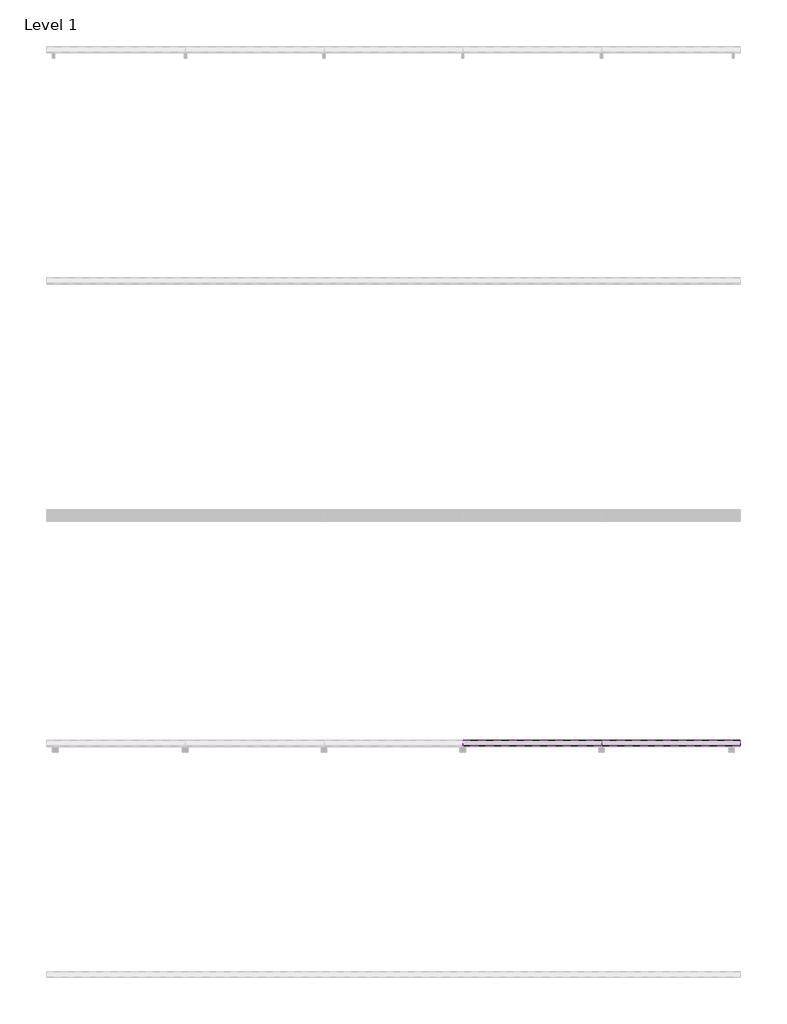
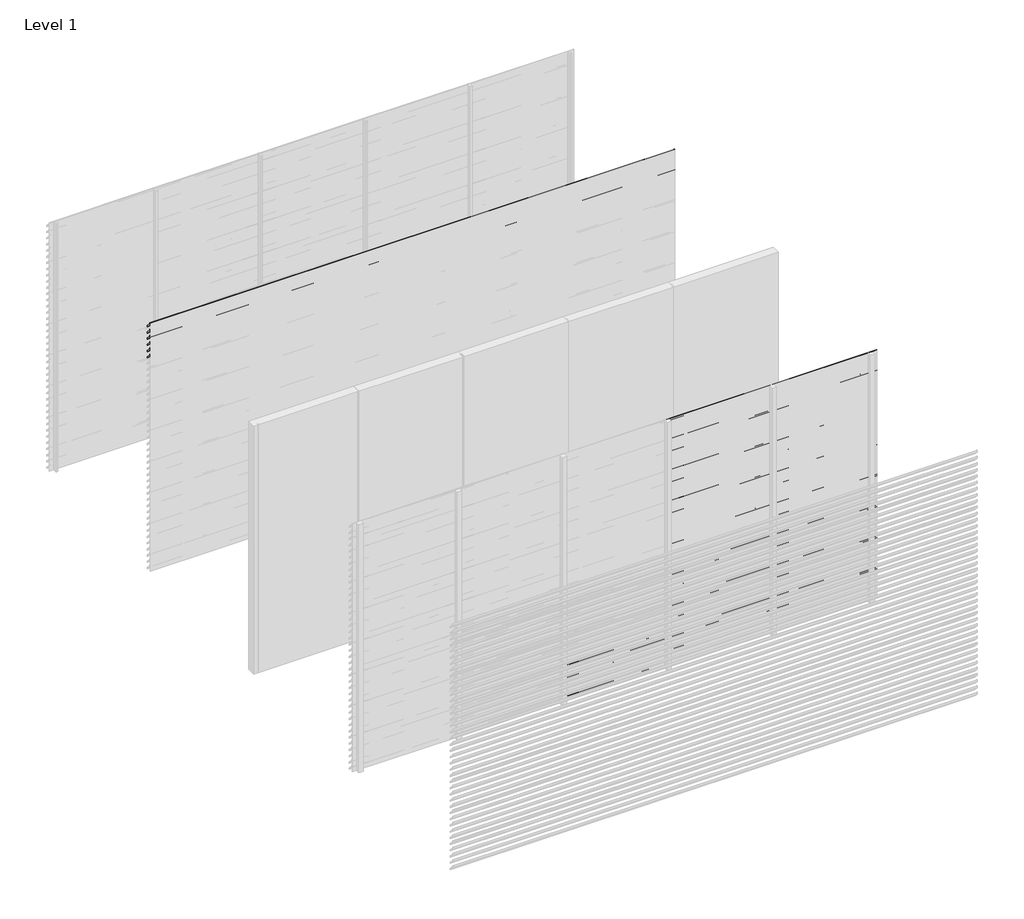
# One storey, part 6 of 11: 93 proxies.
"""IFC4 building model written with IfcOpenShell, lengths in millimetres."""

from ifc_helpers import new_model, si_unit, frame, origin, place, context, project, spatial, polyline, outline, extrude, element, save

model = new_model("IFC4")

# Units and contexts
model_context = context("Model", 3, world=origin())
ifc_project = project(units=[si_unit("LENGTHUNIT", "METRE", prefix="MILLI")], contexts=[model_context])

# Site, building, storey
site = spatial("IfcSite", under=ifc_project)
building = spatial("IfcBuilding", under=site)
storey = spatial("IfcBuildingStorey", under=building, Name="Level 1", Elevation=0.0)

# Proxies
placement = place(None, origin())
element("IfcBuildingElementProxy", 1, Name="Wall Sweeps", at=placement, inside=storey, context=model_context, shape_type="SweptSolid", body=[
    extrude(outline(polyline([(-7995.0, 3000.0), (-7995.0, 2990.7409854), (-7946.0, 2940.0), (-7946.0, 2924.0), (-7997.0, 2976.812046), (-7997.0, 3000.0), (-7995.0, 3000.0)])), frame((0.0, 0.0, 0.0), z_axis=(1.0, 0.0, 0.0), x_axis=(0.0, 1.0, 0.0)), (0.0, 0.0, 1.0), 6000.0),
])
element("IfcBuildingElementProxy", 2, Name="Wall Sweeps", at=placement, inside=storey, context=model_context, shape_type="SweptSolid", body=[
    extrude(outline(polyline([(-7995.0, 2925.0), (-7995.0, 2915.7409854), (-7946.0, 2865.0), (-7946.0, 2849.0), (-7997.0, 2901.812046), (-7997.0, 2925.0), (-7995.0, 2925.0)])), frame((0.0, 0.0, 0.0), z_axis=(1.0, 0.0, 0.0), x_axis=(0.0, 1.0, 0.0)), (0.0, 0.0, 1.0), 6000.0),
])
element("IfcBuildingElementProxy", 3, Name="Wall Sweeps", at=placement, inside=storey, context=model_context, shape_type="SweptSolid", body=[
    extrude(outline(polyline([(-7995.0, 2850.0), (-7995.0, 2840.7409854), (-7946.0, 2790.0), (-7946.0, 2774.0), (-7997.0, 2826.812046), (-7997.0, 2850.0), (-7995.0, 2850.0)])), frame((0.0, 0.0, 0.0), z_axis=(1.0, 0.0, 0.0), x_axis=(0.0, 1.0, 0.0)), (0.0, 0.0, 1.0), 6000.0),
])
element("IfcBuildingElementProxy", 4, Name="Wall Sweeps", at=placement, inside=storey, context=model_context, shape_type="SweptSolid", body=[
    extrude(outline(polyline([(-7995.0, 2775.0), (-7995.0, 2765.7409854), (-7946.0, 2715.0), (-7946.0, 2699.0), (-7997.0, 2751.812046), (-7997.0, 2775.0), (-7995.0, 2775.0)])), frame((0.0, 0.0, 0.0), z_axis=(1.0, 0.0, 0.0), x_axis=(0.0, 1.0, 0.0)), (0.0, 0.0, 1.0), 6000.0),
])
element("IfcBuildingElementProxy", 5, Name="Wall Sweeps", at=placement, inside=storey, context=model_context, shape_type="SweptSolid", body=[
    extrude(outline(polyline([(-7995.0, 2700.0), (-7995.0, 2690.7409854), (-7946.0, 2640.0), (-7946.0, 2624.0), (-7997.0, 2676.812046), (-7997.0, 2700.0), (-7995.0, 2700.0)])), frame((0.0, 0.0, 0.0), z_axis=(1.0, 0.0, 0.0), x_axis=(0.0, 1.0, 0.0)), (0.0, 0.0, 1.0), 6000.0),
])
element("IfcBuildingElementProxy", 6, Name="Wall Sweeps", at=placement, inside=storey, context=model_context, shape_type="SweptSolid", body=[
    extrude(outline(polyline([(-7995.0, 2625.0), (-7995.0, 2615.7409854), (-7946.0, 2565.0), (-7946.0, 2549.0), (-7997.0, 2601.812046), (-7997.0, 2625.0), (-7995.0, 2625.0)])), frame((0.0, 0.0, 0.0), z_axis=(1.0, 0.0, 0.0), x_axis=(0.0, 1.0, 0.0)), (0.0, 0.0, 1.0), 6000.0),
])
element("IfcBuildingElementProxy", 7, Name="Wall Sweeps", at=placement, inside=storey, context=model_context, shape_type="SweptSolid", body=[
    extrude(outline(polyline([(-11995.0, 525.0), (-11995.0, 515.7409854), (-11946.0, 465.0), (-11946.0, 449.0), (-11997.0, 501.812046), (-11997.0, 525.0), (-11995.0, 525.0)])), frame((2400.0, 0.0, 0.0), z_axis=(1.0, 0.0, 0.0), x_axis=(0.0, 1.0, 0.0)), (0.0, 0.0, 1.0), 1200.0),
])
element("IfcBuildingElementProxy", 8, Name="Wall Sweeps", at=placement, inside=storey, context=model_context, shape_type="SweptSolid", body=[
    extrude(outline(polyline([(-11995.0, 450.0), (-11995.0, 440.7409854), (-11946.0, 390.0), (-11946.0, 374.0), (-11997.0, 426.812046), (-11997.0, 450.0), (-11995.0, 450.0)])), frame((2400.0, 0.0, 0.0), z_axis=(1.0, 0.0, 0.0), x_axis=(0.0, 1.0, 0.0)), (0.0, 0.0, 1.0), 1200.0),
])
element("IfcBuildingElementProxy", 9, Name="Wall Sweeps", at=placement, inside=storey, context=model_context, shape_type="SweptSolid", body=[
    extrude(outline(polyline([(-11995.0, 375.0), (-11995.0, 365.7409854), (-11946.0, 315.0), (-11946.0, 299.0), (-11997.0, 351.812046), (-11997.0, 375.0), (-11995.0, 375.0)])), frame((2400.0, 0.0, 0.0), z_axis=(1.0, 0.0, 0.0), x_axis=(0.0, 1.0, 0.0)), (0.0, 0.0, 1.0), 1200.0),
])
element("IfcBuildingElementProxy", 10, Name="Wall Sweeps", at=placement, inside=storey, context=model_context, shape_type="SweptSolid", body=[
    extrude(outline(polyline([(-11995.0, 300.0), (-11995.0, 290.7409854), (-11946.0, 240.0), (-11946.0, 224.0), (-11997.0, 276.812046), (-11997.0, 300.0), (-11995.0, 300.0)])), frame((2400.0, 0.0, 0.0), z_axis=(1.0, 0.0, 0.0), x_axis=(0.0, 1.0, 0.0)), (0.0, 0.0, 1.0), 1200.0),
])
element("IfcBuildingElementProxy", 11, Name="Wall Sweeps", at=placement, inside=storey, context=model_context, shape_type="SweptSolid", body=[
    extrude(outline(polyline([(-11995.0, 225.0), (-11995.0, 215.7409854), (-11946.0, 165.0), (-11946.0, 149.0), (-11997.0, 201.812046), (-11997.0, 225.0), (-11995.0, 225.0)])), frame((2400.0, 0.0, 0.0), z_axis=(1.0, 0.0, 0.0), x_axis=(0.0, 1.0, 0.0)), (0.0, 0.0, 1.0), 1200.0),
])
element("IfcBuildingElementProxy", 12, Name="Wall Sweeps", at=placement, inside=storey, context=model_context, shape_type="SweptSolid", body=[
    extrude(outline(polyline([(-11995.0, 150.0), (-11995.0, 140.7409854), (-11946.0, 90.0), (-11946.0, 74.0), (-11997.0, 126.812046), (-11997.0, 150.0), (-11995.0, 150.0)])), frame((2400.0, 0.0, 0.0), z_axis=(1.0, 0.0, 0.0), x_axis=(0.0, 1.0, 0.0)), (0.0, 0.0, 1.0), 1200.0),
])
element("IfcBuildingElementProxy", 13, Name="Wall Sweeps", at=placement, inside=storey, context=model_context, shape_type="SweptSolid", body=[
    extrude(outline(polyline([(-11995.0, 75.0), (-11995.0, 65.7409854), (-11946.0, 15.0), (-11946.0, -1.0), (-11997.0, 51.812046), (-11997.0, 75.0), (-11995.0, 75.0)])), frame((2400.0, 0.0, 0.0), z_axis=(1.0, 0.0, 0.0), x_axis=(0.0, 1.0, 0.0)), (0.0, 0.0, 1.0), 1200.0),
])
element("IfcBuildingElementProxy", 14, Name="Wall Sweeps", at=placement, inside=storey, context=model_context, shape_type="SweptSolid", body=[
    extrude(outline(polyline([(-11995.0, 3000.0), (-11995.0, 2990.7409854), (-11946.0, 2940.0), (-11946.0, 2924.0), (-11997.0, 2976.812046), (-11997.0, 3000.0), (-11995.0, 3000.0)])), frame((3600.0, 0.0, 0.0), z_axis=(1.0, 0.0, 0.0), x_axis=(0.0, 1.0, 0.0)), (0.0, 0.0, 1.0), 1200.0),
])
element("IfcBuildingElementProxy", 15, Name="Wall Sweeps", at=placement, inside=storey, context=model_context, shape_type="SweptSolid", body=[
    extrude(outline(polyline([(-11995.0, 2925.0), (-11995.0, 2915.7409854), (-11946.0, 2865.0), (-11946.0, 2849.0), (-11997.0, 2901.812046), (-11997.0, 2925.0), (-11995.0, 2925.0)])), frame((3600.0, 0.0, 0.0), z_axis=(1.0, 0.0, 0.0), x_axis=(0.0, 1.0, 0.0)), (0.0, 0.0, 1.0), 1200.0),
])
element("IfcBuildingElementProxy", 16, Name="Wall Sweeps", at=placement, inside=storey, context=model_context, shape_type="SweptSolid", body=[
    extrude(outline(polyline([(-11995.0, 2850.0), (-11995.0, 2840.7409854), (-11946.0, 2790.0), (-11946.0, 2774.0), (-11997.0, 2826.812046), (-11997.0, 2850.0), (-11995.0, 2850.0)])), frame((3600.0, 0.0, 0.0), z_axis=(1.0, 0.0, 0.0), x_axis=(0.0, 1.0, 0.0)), (0.0, 0.0, 1.0), 1200.0),
])
element("IfcBuildingElementProxy", 17, Name="Wall Sweeps", at=placement, inside=storey, context=model_context, shape_type="SweptSolid", body=[
    extrude(outline(polyline([(-11995.0, 2775.0), (-11995.0, 2765.7409854), (-11946.0, 2715.0), (-11946.0, 2699.0), (-11997.0, 2751.812046), (-11997.0, 2775.0), (-11995.0, 2775.0)])), frame((3600.0, 0.0, 0.0), z_axis=(1.0, 0.0, 0.0), x_axis=(0.0, 1.0, 0.0)), (0.0, 0.0, 1.0), 1200.0),
])
element("IfcBuildingElementProxy", 18, Name="Wall Sweeps", at=placement, inside=storey, context=model_context, shape_type="SweptSolid", body=[
    extrude(outline(polyline([(-11995.0, 2700.0), (-11995.0, 2690.7409854), (-11946.0, 2640.0), (-11946.0, 2624.0), (-11997.0, 2676.812046), (-11997.0, 2700.0), (-11995.0, 2700.0)])), frame((3600.0, 0.0, 0.0), z_axis=(1.0, 0.0, 0.0), x_axis=(0.0, 1.0, 0.0)), (0.0, 0.0, 1.0), 1200.0),
])
element("IfcBuildingElementProxy", 19, Name="Wall Sweeps", at=placement, inside=storey, context=model_context, shape_type="SweptSolid", body=[
    extrude(outline(polyline([(-11995.0, 2625.0), (-11995.0, 2615.7409854), (-11946.0, 2565.0), (-11946.0, 2549.0), (-11997.0, 2601.812046), (-11997.0, 2625.0), (-11995.0, 2625.0)])), frame((3600.0, 0.0, 0.0), z_axis=(1.0, 0.0, 0.0), x_axis=(0.0, 1.0, 0.0)), (0.0, 0.0, 1.0), 1200.0),
])
element("IfcBuildingElementProxy", 20, Name="Wall Sweeps", at=placement, inside=storey, context=model_context, shape_type="SweptSolid", body=[
    extrude(outline(polyline([(-11995.0, 2550.0), (-11995.0, 2540.7409854), (-11946.0, 2490.0), (-11946.0, 2474.0), (-11997.0, 2526.812046), (-11997.0, 2550.0), (-11995.0, 2550.0)])), frame((3600.0, 0.0, 0.0), z_axis=(1.0, 0.0, 0.0), x_axis=(0.0, 1.0, 0.0)), (0.0, 0.0, 1.0), 1200.0),
])
element("IfcBuildingElementProxy", 21, Name="Wall Sweeps", at=placement, inside=storey, context=model_context, shape_type="SweptSolid", body=[
    extrude(outline(polyline([(-11995.0, 2475.0), (-11995.0, 2465.7409854), (-11946.0, 2415.0), (-11946.0, 2399.0), (-11997.0, 2451.812046), (-11997.0, 2475.0), (-11995.0, 2475.0)])), frame((3600.0, 0.0, 0.0), z_axis=(1.0, 0.0, 0.0), x_axis=(0.0, 1.0, 0.0)), (0.0, 0.0, 1.0), 1200.0),
])
element("IfcBuildingElementProxy", 22, Name="Wall Sweeps", at=placement, inside=storey, context=model_context, shape_type="SweptSolid", body=[
    extrude(outline(polyline([(-11995.0, 2400.0), (-11995.0, 2390.7409854), (-11946.0, 2340.0), (-11946.0, 2324.0), (-11997.0, 2376.812046), (-11997.0, 2400.0), (-11995.0, 2400.0)])), frame((3600.0, 0.0, 0.0), z_axis=(1.0, 0.0, 0.0), x_axis=(0.0, 1.0, 0.0)), (0.0, 0.0, 1.0), 1200.0),
])
element("IfcBuildingElementProxy", 23, Name="Wall Sweeps", at=placement, inside=storey, context=model_context, shape_type="SweptSolid", body=[
    extrude(outline(polyline([(-11995.0, 2325.0), (-11995.0, 2315.7409854), (-11946.0, 2265.0), (-11946.0, 2249.0), (-11997.0, 2301.812046), (-11997.0, 2325.0), (-11995.0, 2325.0)])), frame((3600.0, 0.0, 0.0), z_axis=(1.0, 0.0, 0.0), x_axis=(0.0, 1.0, 0.0)), (0.0, 0.0, 1.0), 1200.0),
])
element("IfcBuildingElementProxy", 24, Name="Wall Sweeps", at=placement, inside=storey, context=model_context, shape_type="SweptSolid", body=[
    extrude(outline(polyline([(-11995.0, 2250.0), (-11995.0, 2240.7409854), (-11946.0, 2190.0), (-11946.0, 2174.0), (-11997.0, 2226.812046), (-11997.0, 2250.0), (-11995.0, 2250.0)])), frame((3600.0, 0.0, 0.0), z_axis=(1.0, 0.0, 0.0), x_axis=(0.0, 1.0, 0.0)), (0.0, 0.0, 1.0), 1200.0),
])
element("IfcBuildingElementProxy", 25, Name="Wall Sweeps", at=placement, inside=storey, context=model_context, shape_type="SweptSolid", body=[
    extrude(outline(polyline([(-11995.0, 2175.0), (-11995.0, 2165.7409854), (-11946.0, 2115.0), (-11946.0, 2099.0), (-11997.0, 2151.812046), (-11997.0, 2175.0), (-11995.0, 2175.0)])), frame((3600.0, 0.0, 0.0), z_axis=(1.0, 0.0, 0.0), x_axis=(0.0, 1.0, 0.0)), (0.0, 0.0, 1.0), 1200.0),
])
element("IfcBuildingElementProxy", 26, Name="Wall Sweeps", at=placement, inside=storey, context=model_context, shape_type="SweptSolid", body=[
    extrude(outline(polyline([(-11995.0, 2100.0), (-11995.0, 2090.7409854), (-11946.0, 2040.0), (-11946.0, 2024.0), (-11997.0, 2076.812046), (-11997.0, 2100.0), (-11995.0, 2100.0)])), frame((3600.0, 0.0, 0.0), z_axis=(1.0, 0.0, 0.0), x_axis=(0.0, 1.0, 0.0)), (0.0, 0.0, 1.0), 1200.0),
])
element("IfcBuildingElementProxy", 27, Name="Wall Sweeps", at=placement, inside=storey, context=model_context, shape_type="SweptSolid", body=[
    extrude(outline(polyline([(-11995.0, 2025.0), (-11995.0, 2015.7409854), (-11946.0, 1965.0), (-11946.0, 1949.0), (-11997.0, 2001.812046), (-11997.0, 2025.0), (-11995.0, 2025.0)])), frame((3600.0, 0.0, 0.0), z_axis=(1.0, 0.0, 0.0), x_axis=(0.0, 1.0, 0.0)), (0.0, 0.0, 1.0), 1200.0),
])
element("IfcBuildingElementProxy", 28, Name="Wall Sweeps", at=placement, inside=storey, context=model_context, shape_type="SweptSolid", body=[
    extrude(outline(polyline([(-11995.0, 1950.0), (-11995.0, 1940.7409854), (-11946.0, 1890.0), (-11946.0, 1874.0), (-11997.0, 1926.812046), (-11997.0, 1950.0), (-11995.0, 1950.0)])), frame((3600.0, 0.0, 0.0), z_axis=(1.0, 0.0, 0.0), x_axis=(0.0, 1.0, 0.0)), (0.0, 0.0, 1.0), 1200.0),
])
element("IfcBuildingElementProxy", 29, Name="Wall Sweeps", at=placement, inside=storey, context=model_context, shape_type="SweptSolid", body=[
    extrude(outline(polyline([(-11995.0, 1875.0), (-11995.0, 1865.7409854), (-11946.0, 1815.0), (-11946.0, 1799.0), (-11997.0, 1851.812046), (-11997.0, 1875.0), (-11995.0, 1875.0)])), frame((3600.0, 0.0, 0.0), z_axis=(1.0, 0.0, 0.0), x_axis=(0.0, 1.0, 0.0)), (0.0, 0.0, 1.0), 1200.0),
])
element("IfcBuildingElementProxy", 30, Name="Wall Sweeps", at=placement, inside=storey, context=model_context, shape_type="SweptSolid", body=[
    extrude(outline(polyline([(-11995.0, 1800.0), (-11995.0, 1790.7409854), (-11946.0, 1740.0), (-11946.0, 1724.0), (-11997.0, 1776.812046), (-11997.0, 1800.0), (-11995.0, 1800.0)])), frame((3600.0, 0.0, 0.0), z_axis=(1.0, 0.0, 0.0), x_axis=(0.0, 1.0, 0.0)), (0.0, 0.0, 1.0), 1200.0),
])
element("IfcBuildingElementProxy", 31, Name="Wall Sweeps", at=placement, inside=storey, context=model_context, shape_type="SweptSolid", body=[
    extrude(outline(polyline([(-11995.0, 1725.0), (-11995.0, 1715.7409854), (-11946.0, 1665.0), (-11946.0, 1649.0), (-11997.0, 1701.812046), (-11997.0, 1725.0), (-11995.0, 1725.0)])), frame((3600.0, 0.0, 0.0), z_axis=(1.0, 0.0, 0.0), x_axis=(0.0, 1.0, 0.0)), (0.0, 0.0, 1.0), 1200.0),
])
element("IfcBuildingElementProxy", 32, Name="Wall Sweeps", at=placement, inside=storey, context=model_context, shape_type="SweptSolid", body=[
    extrude(outline(polyline([(-11995.0, 1650.0), (-11995.0, 1640.7409854), (-11946.0, 1590.0), (-11946.0, 1574.0), (-11997.0, 1626.812046), (-11997.0, 1650.0), (-11995.0, 1650.0)])), frame((3600.0, 0.0, 0.0), z_axis=(1.0, 0.0, 0.0), x_axis=(0.0, 1.0, 0.0)), (0.0, 0.0, 1.0), 1200.0),
])
element("IfcBuildingElementProxy", 33, Name="Wall Sweeps", at=placement, inside=storey, context=model_context, shape_type="SweptSolid", body=[
    extrude(outline(polyline([(-11995.0, 1575.0), (-11995.0, 1565.7409854), (-11946.0, 1515.0), (-11946.0, 1499.0), (-11997.0, 1551.812046), (-11997.0, 1575.0), (-11995.0, 1575.0)])), frame((3600.0, 0.0, 0.0), z_axis=(1.0, 0.0, 0.0), x_axis=(0.0, 1.0, 0.0)), (0.0, 0.0, 1.0), 1200.0),
])
element("IfcBuildingElementProxy", 34, Name="Wall Sweeps", at=placement, inside=storey, context=model_context, shape_type="SweptSolid", body=[
    extrude(outline(polyline([(-11995.0, 1500.0), (-11995.0, 1490.7409854), (-11946.0, 1440.0), (-11946.0, 1424.0), (-11997.0, 1476.812046), (-11997.0, 1500.0), (-11995.0, 1500.0)])), frame((3600.0, 0.0, 0.0), z_axis=(1.0, 0.0, 0.0), x_axis=(0.0, 1.0, 0.0)), (0.0, 0.0, 1.0), 1200.0),
])
element("IfcBuildingElementProxy", 35, Name="Wall Sweeps", at=placement, inside=storey, context=model_context, shape_type="SweptSolid", body=[
    extrude(outline(polyline([(-11995.0, 1425.0), (-11995.0, 1415.7409854), (-11946.0, 1365.0), (-11946.0, 1349.0), (-11997.0, 1401.812046), (-11997.0, 1425.0), (-11995.0, 1425.0)])), frame((3600.0, 0.0, 0.0), z_axis=(1.0, 0.0, 0.0), x_axis=(0.0, 1.0, 0.0)), (0.0, 0.0, 1.0), 1200.0),
])
element("IfcBuildingElementProxy", 36, Name="Wall Sweeps", at=placement, inside=storey, context=model_context, shape_type="SweptSolid", body=[
    extrude(outline(polyline([(-11995.0, 1350.0), (-11995.0, 1340.7409854), (-11946.0, 1290.0), (-11946.0, 1274.0), (-11997.0, 1326.812046), (-11997.0, 1350.0), (-11995.0, 1350.0)])), frame((3600.0, 0.0, 0.0), z_axis=(1.0, 0.0, 0.0), x_axis=(0.0, 1.0, 0.0)), (0.0, 0.0, 1.0), 1200.0),
])
element("IfcBuildingElementProxy", 37, Name="Wall Sweeps", at=placement, inside=storey, context=model_context, shape_type="SweptSolid", body=[
    extrude(outline(polyline([(-11995.0, 1275.0), (-11995.0, 1265.7409854), (-11946.0, 1215.0), (-11946.0, 1199.0), (-11997.0, 1251.812046), (-11997.0, 1275.0), (-11995.0, 1275.0)])), frame((3600.0, 0.0, 0.0), z_axis=(1.0, 0.0, 0.0), x_axis=(0.0, 1.0, 0.0)), (0.0, 0.0, 1.0), 1200.0),
])
element("IfcBuildingElementProxy", 38, Name="Wall Sweeps", at=placement, inside=storey, context=model_context, shape_type="SweptSolid", body=[
    extrude(outline(polyline([(-11995.0, 1200.0), (-11995.0, 1190.7409854), (-11946.0, 1140.0), (-11946.0, 1124.0), (-11997.0, 1176.812046), (-11997.0, 1200.0), (-11995.0, 1200.0)])), frame((3600.0, 0.0, 0.0), z_axis=(1.0, 0.0, 0.0), x_axis=(0.0, 1.0, 0.0)), (0.0, 0.0, 1.0), 1200.0),
])
element("IfcBuildingElementProxy", 39, Name="Wall Sweeps", at=placement, inside=storey, context=model_context, shape_type="SweptSolid", body=[
    extrude(outline(polyline([(-11995.0, 1125.0), (-11995.0, 1115.7409854), (-11946.0, 1065.0), (-11946.0, 1049.0), (-11997.0, 1101.812046), (-11997.0, 1125.0), (-11995.0, 1125.0)])), frame((3600.0, 0.0, 0.0), z_axis=(1.0, 0.0, 0.0), x_axis=(0.0, 1.0, 0.0)), (0.0, 0.0, 1.0), 1200.0),
])
element("IfcBuildingElementProxy", 40, Name="Wall Sweeps", at=placement, inside=storey, context=model_context, shape_type="SweptSolid", body=[
    extrude(outline(polyline([(-11995.0, 1050.0), (-11995.0, 1040.7409854), (-11946.0, 990.0), (-11946.0, 974.0), (-11997.0, 1026.812046), (-11997.0, 1050.0), (-11995.0, 1050.0)])), frame((3600.0, 0.0, 0.0), z_axis=(1.0, 0.0, 0.0), x_axis=(0.0, 1.0, 0.0)), (0.0, 0.0, 1.0), 1200.0),
])
element("IfcBuildingElementProxy", 41, Name="Wall Sweeps", at=placement, inside=storey, context=model_context, shape_type="SweptSolid", body=[
    extrude(outline(polyline([(-11995.0, 975.0), (-11995.0, 965.7409854), (-11946.0, 915.0), (-11946.0, 899.0), (-11997.0, 951.812046), (-11997.0, 975.0), (-11995.0, 975.0)])), frame((3600.0, 0.0, 0.0), z_axis=(1.0, 0.0, 0.0), x_axis=(0.0, 1.0, 0.0)), (0.0, 0.0, 1.0), 1200.0),
])
element("IfcBuildingElementProxy", 42, Name="Wall Sweeps", at=placement, inside=storey, context=model_context, shape_type="SweptSolid", body=[
    extrude(outline(polyline([(-11995.0, 900.0), (-11995.0, 890.7409854), (-11946.0, 840.0), (-11946.0, 824.0), (-11997.0, 876.812046), (-11997.0, 900.0), (-11995.0, 900.0)])), frame((3600.0, 0.0, 0.0), z_axis=(1.0, 0.0, 0.0), x_axis=(0.0, 1.0, 0.0)), (0.0, 0.0, 1.0), 1200.0),
])
element("IfcBuildingElementProxy", 43, Name="Wall Sweeps", at=placement, inside=storey, context=model_context, shape_type="SweptSolid", body=[
    extrude(outline(polyline([(-11995.0, 825.0), (-11995.0, 815.7409854), (-11946.0, 765.0), (-11946.0, 749.0), (-11997.0, 801.812046), (-11997.0, 825.0), (-11995.0, 825.0)])), frame((3600.0, 0.0, 0.0), z_axis=(1.0, 0.0, 0.0), x_axis=(0.0, 1.0, 0.0)), (0.0, 0.0, 1.0), 1200.0),
])
element("IfcBuildingElementProxy", 44, Name="Wall Sweeps", at=placement, inside=storey, context=model_context, shape_type="SweptSolid", body=[
    extrude(outline(polyline([(-11995.0, 750.0), (-11995.0, 740.7409854), (-11946.0, 690.0), (-11946.0, 674.0), (-11997.0, 726.812046), (-11997.0, 750.0), (-11995.0, 750.0)])), frame((3600.0, 0.0, 0.0), z_axis=(1.0, 0.0, 0.0), x_axis=(0.0, 1.0, 0.0)), (0.0, 0.0, 1.0), 1200.0),
])
element("IfcBuildingElementProxy", 45, Name="Wall Sweeps", at=placement, inside=storey, context=model_context, shape_type="SweptSolid", body=[
    extrude(outline(polyline([(-11995.0, 675.0), (-11995.0, 665.7409854), (-11946.0, 615.0), (-11946.0, 599.0), (-11997.0, 651.812046), (-11997.0, 675.0), (-11995.0, 675.0)])), frame((3600.0, 0.0, 0.0), z_axis=(1.0, 0.0, 0.0), x_axis=(0.0, 1.0, 0.0)), (0.0, 0.0, 1.0), 1200.0),
])
element("IfcBuildingElementProxy", 46, Name="Wall Sweeps", at=placement, inside=storey, context=model_context, shape_type="SweptSolid", body=[
    extrude(outline(polyline([(-11995.0, 600.0), (-11995.0, 590.7409854), (-11946.0, 540.0), (-11946.0, 524.0), (-11997.0, 576.812046), (-11997.0, 600.0), (-11995.0, 600.0)])), frame((3600.0, 0.0, 0.0), z_axis=(1.0, 0.0, 0.0), x_axis=(0.0, 1.0, 0.0)), (0.0, 0.0, 1.0), 1200.0),
])
element("IfcBuildingElementProxy", 47, Name="Wall Sweeps", at=placement, inside=storey, context=model_context, shape_type="SweptSolid", body=[
    extrude(outline(polyline([(-11995.0, 525.0), (-11995.0, 515.7409854), (-11946.0, 465.0), (-11946.0, 449.0), (-11997.0, 501.812046), (-11997.0, 525.0), (-11995.0, 525.0)])), frame((3600.0, 0.0, 0.0), z_axis=(1.0, 0.0, 0.0), x_axis=(0.0, 1.0, 0.0)), (0.0, 0.0, 1.0), 1200.0),
])
element("IfcBuildingElementProxy", 48, Name="Wall Sweeps", at=placement, inside=storey, context=model_context, shape_type="SweptSolid", body=[
    extrude(outline(polyline([(-11995.0, 450.0), (-11995.0, 440.7409854), (-11946.0, 390.0), (-11946.0, 374.0), (-11997.0, 426.812046), (-11997.0, 450.0), (-11995.0, 450.0)])), frame((3600.0, 0.0, 0.0), z_axis=(1.0, 0.0, 0.0), x_axis=(0.0, 1.0, 0.0)), (0.0, 0.0, 1.0), 1200.0),
])
element("IfcBuildingElementProxy", 49, Name="Wall Sweeps", at=placement, inside=storey, context=model_context, shape_type="SweptSolid", body=[
    extrude(outline(polyline([(-11995.0, 375.0), (-11995.0, 365.7409854), (-11946.0, 315.0), (-11946.0, 299.0), (-11997.0, 351.812046), (-11997.0, 375.0), (-11995.0, 375.0)])), frame((3600.0, 0.0, 0.0), z_axis=(1.0, 0.0, 0.0), x_axis=(0.0, 1.0, 0.0)), (0.0, 0.0, 1.0), 1200.0),
])
element("IfcBuildingElementProxy", 50, Name="Wall Sweeps", at=placement, inside=storey, context=model_context, shape_type="SweptSolid", body=[
    extrude(outline(polyline([(-11995.0, 300.0), (-11995.0, 290.7409854), (-11946.0, 240.0), (-11946.0, 224.0), (-11997.0, 276.812046), (-11997.0, 300.0), (-11995.0, 300.0)])), frame((3600.0, 0.0, 0.0), z_axis=(1.0, 0.0, 0.0), x_axis=(0.0, 1.0, 0.0)), (0.0, 0.0, 1.0), 1200.0),
])
element("IfcBuildingElementProxy", 51, Name="Wall Sweeps", at=placement, inside=storey, context=model_context, shape_type="SweptSolid", body=[
    extrude(outline(polyline([(-11995.0, 225.0), (-11995.0, 215.7409854), (-11946.0, 165.0), (-11946.0, 149.0), (-11997.0, 201.812046), (-11997.0, 225.0), (-11995.0, 225.0)])), frame((3600.0, 0.0, 0.0), z_axis=(1.0, 0.0, 0.0), x_axis=(0.0, 1.0, 0.0)), (0.0, 0.0, 1.0), 1200.0),
])
element("IfcBuildingElementProxy", 52, Name="Wall Sweeps", at=placement, inside=storey, context=model_context, shape_type="SweptSolid", body=[
    extrude(outline(polyline([(-11995.0, 150.0), (-11995.0, 140.7409854), (-11946.0, 90.0), (-11946.0, 74.0), (-11997.0, 126.812046), (-11997.0, 150.0), (-11995.0, 150.0)])), frame((3600.0, 0.0, 0.0), z_axis=(1.0, 0.0, 0.0), x_axis=(0.0, 1.0, 0.0)), (0.0, 0.0, 1.0), 1200.0),
])
element("IfcBuildingElementProxy", 53, Name="Wall Sweeps", at=placement, inside=storey, context=model_context, shape_type="SweptSolid", body=[
    extrude(outline(polyline([(-11995.0, 75.0), (-11995.0, 65.7409854), (-11946.0, 15.0), (-11946.0, -1.0), (-11997.0, 51.812046), (-11997.0, 75.0), (-11995.0, 75.0)])), frame((3600.0, 0.0, 0.0), z_axis=(1.0, 0.0, 0.0), x_axis=(0.0, 1.0, 0.0)), (0.0, 0.0, 1.0), 1200.0),
])
element("IfcBuildingElementProxy", 54, Name="Wall Sweeps", at=placement, inside=storey, context=model_context, shape_type="SweptSolid", body=[
    extrude(outline(polyline([(-11995.0, 3000.0), (-11995.0, 2990.7409854), (-11946.0, 2940.0), (-11946.0, 2924.0), (-11997.0, 2976.812046), (-11997.0, 3000.0), (-11995.0, 3000.0)])), frame((4800.0, 0.0, 0.0), z_axis=(1.0, 0.0, 0.0), x_axis=(0.0, 1.0, 0.0)), (0.0, 0.0, 1.0), 1200.0),
])
element("IfcBuildingElementProxy", 55, Name="Wall Sweeps", at=placement, inside=storey, context=model_context, shape_type="SweptSolid", body=[
    extrude(outline(polyline([(-11995.0, 2925.0), (-11995.0, 2915.7409854), (-11946.0, 2865.0), (-11946.0, 2849.0), (-11997.0, 2901.812046), (-11997.0, 2925.0), (-11995.0, 2925.0)])), frame((4800.0, 0.0, 0.0), z_axis=(1.0, 0.0, 0.0), x_axis=(0.0, 1.0, 0.0)), (0.0, 0.0, 1.0), 1200.0),
])
element("IfcBuildingElementProxy", 56, Name="Wall Sweeps", at=placement, inside=storey, context=model_context, shape_type="SweptSolid", body=[
    extrude(outline(polyline([(-11995.0, 2850.0), (-11995.0, 2840.7409854), (-11946.0, 2790.0), (-11946.0, 2774.0), (-11997.0, 2826.812046), (-11997.0, 2850.0), (-11995.0, 2850.0)])), frame((4800.0, 0.0, 0.0), z_axis=(1.0, 0.0, 0.0), x_axis=(0.0, 1.0, 0.0)), (0.0, 0.0, 1.0), 1200.0),
])
element("IfcBuildingElementProxy", 57, Name="Wall Sweeps", at=placement, inside=storey, context=model_context, shape_type="SweptSolid", body=[
    extrude(outline(polyline([(-11995.0, 2775.0), (-11995.0, 2765.7409854), (-11946.0, 2715.0), (-11946.0, 2699.0), (-11997.0, 2751.812046), (-11997.0, 2775.0), (-11995.0, 2775.0)])), frame((4800.0, 0.0, 0.0), z_axis=(1.0, 0.0, 0.0), x_axis=(0.0, 1.0, 0.0)), (0.0, 0.0, 1.0), 1200.0),
])
element("IfcBuildingElementProxy", 58, Name="Wall Sweeps", at=placement, inside=storey, context=model_context, shape_type="SweptSolid", body=[
    extrude(outline(polyline([(-11995.0, 2700.0), (-11995.0, 2690.7409854), (-11946.0, 2640.0), (-11946.0, 2624.0), (-11997.0, 2676.812046), (-11997.0, 2700.0), (-11995.0, 2700.0)])), frame((4800.0, 0.0, 0.0), z_axis=(1.0, 0.0, 0.0), x_axis=(0.0, 1.0, 0.0)), (0.0, 0.0, 1.0), 1200.0),
])
element("IfcBuildingElementProxy", 59, Name="Wall Sweeps", at=placement, inside=storey, context=model_context, shape_type="SweptSolid", body=[
    extrude(outline(polyline([(-11995.0, 2625.0), (-11995.0, 2615.7409854), (-11946.0, 2565.0), (-11946.0, 2549.0), (-11997.0, 2601.812046), (-11997.0, 2625.0), (-11995.0, 2625.0)])), frame((4800.0, 0.0, 0.0), z_axis=(1.0, 0.0, 0.0), x_axis=(0.0, 1.0, 0.0)), (0.0, 0.0, 1.0), 1200.0),
])
element("IfcBuildingElementProxy", 60, Name="Wall Sweeps", at=placement, inside=storey, context=model_context, shape_type="SweptSolid", body=[
    extrude(outline(polyline([(-11995.0, 2550.0), (-11995.0, 2540.7409854), (-11946.0, 2490.0), (-11946.0, 2474.0), (-11997.0, 2526.812046), (-11997.0, 2550.0), (-11995.0, 2550.0)])), frame((4800.0, 0.0, 0.0), z_axis=(1.0, 0.0, 0.0), x_axis=(0.0, 1.0, 0.0)), (0.0, 0.0, 1.0), 1200.0),
])
element("IfcBuildingElementProxy", 61, Name="Wall Sweeps", at=placement, inside=storey, context=model_context, shape_type="SweptSolid", body=[
    extrude(outline(polyline([(-11995.0, 2475.0), (-11995.0, 2465.7409854), (-11946.0, 2415.0), (-11946.0, 2399.0), (-11997.0, 2451.812046), (-11997.0, 2475.0), (-11995.0, 2475.0)])), frame((4800.0, 0.0, 0.0), z_axis=(1.0, 0.0, 0.0), x_axis=(0.0, 1.0, 0.0)), (0.0, 0.0, 1.0), 1200.0),
])
element("IfcBuildingElementProxy", 62, Name="Wall Sweeps", at=placement, inside=storey, context=model_context, shape_type="SweptSolid", body=[
    extrude(outline(polyline([(-11995.0, 2400.0), (-11995.0, 2390.7409854), (-11946.0, 2340.0), (-11946.0, 2324.0), (-11997.0, 2376.812046), (-11997.0, 2400.0), (-11995.0, 2400.0)])), frame((4800.0, 0.0, 0.0), z_axis=(1.0, 0.0, 0.0), x_axis=(0.0, 1.0, 0.0)), (0.0, 0.0, 1.0), 1200.0),
])
element("IfcBuildingElementProxy", 63, Name="Wall Sweeps", at=placement, inside=storey, context=model_context, shape_type="SweptSolid", body=[
    extrude(outline(polyline([(-11995.0, 2325.0), (-11995.0, 2315.7409854), (-11946.0, 2265.0), (-11946.0, 2249.0), (-11997.0, 2301.812046), (-11997.0, 2325.0), (-11995.0, 2325.0)])), frame((4800.0, 0.0, 0.0), z_axis=(1.0, 0.0, 0.0), x_axis=(0.0, 1.0, 0.0)), (0.0, 0.0, 1.0), 1200.0),
])
element("IfcBuildingElementProxy", 64, Name="Wall Sweeps", at=placement, inside=storey, context=model_context, shape_type="SweptSolid", body=[
    extrude(outline(polyline([(-11995.0, 2250.0), (-11995.0, 2240.7409854), (-11946.0, 2190.0), (-11946.0, 2174.0), (-11997.0, 2226.812046), (-11997.0, 2250.0), (-11995.0, 2250.0)])), frame((4800.0, 0.0, 0.0), z_axis=(1.0, 0.0, 0.0), x_axis=(0.0, 1.0, 0.0)), (0.0, 0.0, 1.0), 1200.0),
])
element("IfcBuildingElementProxy", 65, Name="Wall Sweeps", at=placement, inside=storey, context=model_context, shape_type="SweptSolid", body=[
    extrude(outline(polyline([(-11995.0, 2175.0), (-11995.0, 2165.7409854), (-11946.0, 2115.0), (-11946.0, 2099.0), (-11997.0, 2151.812046), (-11997.0, 2175.0), (-11995.0, 2175.0)])), frame((4800.0, 0.0, 0.0), z_axis=(1.0, 0.0, 0.0), x_axis=(0.0, 1.0, 0.0)), (0.0, 0.0, 1.0), 1200.0),
])
element("IfcBuildingElementProxy", 66, Name="Wall Sweeps", at=placement, inside=storey, context=model_context, shape_type="SweptSolid", body=[
    extrude(outline(polyline([(-11995.0, 2100.0), (-11995.0, 2090.7409854), (-11946.0, 2040.0), (-11946.0, 2024.0), (-11997.0, 2076.812046), (-11997.0, 2100.0), (-11995.0, 2100.0)])), frame((4800.0, 0.0, 0.0), z_axis=(1.0, 0.0, 0.0), x_axis=(0.0, 1.0, 0.0)), (0.0, 0.0, 1.0), 1200.0),
])
element("IfcBuildingElementProxy", 67, Name="Wall Sweeps", at=placement, inside=storey, context=model_context, shape_type="SweptSolid", body=[
    extrude(outline(polyline([(-11995.0, 2025.0), (-11995.0, 2015.7409854), (-11946.0, 1965.0), (-11946.0, 1949.0), (-11997.0, 2001.812046), (-11997.0, 2025.0), (-11995.0, 2025.0)])), frame((4800.0, 0.0, 0.0), z_axis=(1.0, 0.0, 0.0), x_axis=(0.0, 1.0, 0.0)), (0.0, 0.0, 1.0), 1200.0),
])
element("IfcBuildingElementProxy", 68, Name="Wall Sweeps", at=placement, inside=storey, context=model_context, shape_type="SweptSolid", body=[
    extrude(outline(polyline([(-11995.0, 1950.0), (-11995.0, 1940.7409854), (-11946.0, 1890.0), (-11946.0, 1874.0), (-11997.0, 1926.812046), (-11997.0, 1950.0), (-11995.0, 1950.0)])), frame((4800.0, 0.0, 0.0), z_axis=(1.0, 0.0, 0.0), x_axis=(0.0, 1.0, 0.0)), (0.0, 0.0, 1.0), 1200.0),
])
element("IfcBuildingElementProxy", 69, Name="Wall Sweeps", at=placement, inside=storey, context=model_context, shape_type="SweptSolid", body=[
    extrude(outline(polyline([(-11995.0, 1875.0), (-11995.0, 1865.7409854), (-11946.0, 1815.0), (-11946.0, 1799.0), (-11997.0, 1851.812046), (-11997.0, 1875.0), (-11995.0, 1875.0)])), frame((4800.0, 0.0, 0.0), z_axis=(1.0, 0.0, 0.0), x_axis=(0.0, 1.0, 0.0)), (0.0, 0.0, 1.0), 1200.0),
])
element("IfcBuildingElementProxy", 70, Name="Wall Sweeps", at=placement, inside=storey, context=model_context, shape_type="SweptSolid", body=[
    extrude(outline(polyline([(-11995.0, 1800.0), (-11995.0, 1790.7409854), (-11946.0, 1740.0), (-11946.0, 1724.0), (-11997.0, 1776.812046), (-11997.0, 1800.0), (-11995.0, 1800.0)])), frame((4800.0, 0.0, 0.0), z_axis=(1.0, 0.0, 0.0), x_axis=(0.0, 1.0, 0.0)), (0.0, 0.0, 1.0), 1200.0),
])
element("IfcBuildingElementProxy", 71, Name="Wall Sweeps", at=placement, inside=storey, context=model_context, shape_type="SweptSolid", body=[
    extrude(outline(polyline([(-11995.0, 1725.0), (-11995.0, 1715.7409854), (-11946.0, 1665.0), (-11946.0, 1649.0), (-11997.0, 1701.812046), (-11997.0, 1725.0), (-11995.0, 1725.0)])), frame((4800.0, 0.0, 0.0), z_axis=(1.0, 0.0, 0.0), x_axis=(0.0, 1.0, 0.0)), (0.0, 0.0, 1.0), 1200.0),
])
element("IfcBuildingElementProxy", 72, Name="Wall Sweeps", at=placement, inside=storey, context=model_context, shape_type="SweptSolid", body=[
    extrude(outline(polyline([(-11995.0, 1650.0), (-11995.0, 1640.7409854), (-11946.0, 1590.0), (-11946.0, 1574.0), (-11997.0, 1626.812046), (-11997.0, 1650.0), (-11995.0, 1650.0)])), frame((4800.0, 0.0, 0.0), z_axis=(1.0, 0.0, 0.0), x_axis=(0.0, 1.0, 0.0)), (0.0, 0.0, 1.0), 1200.0),
])
element("IfcBuildingElementProxy", 73, Name="Wall Sweeps", at=placement, inside=storey, context=model_context, shape_type="SweptSolid", body=[
    extrude(outline(polyline([(-11995.0, 1575.0), (-11995.0, 1565.7409854), (-11946.0, 1515.0), (-11946.0, 1499.0), (-11997.0, 1551.812046), (-11997.0, 1575.0), (-11995.0, 1575.0)])), frame((4800.0, 0.0, 0.0), z_axis=(1.0, 0.0, 0.0), x_axis=(0.0, 1.0, 0.0)), (0.0, 0.0, 1.0), 1200.0),
])
element("IfcBuildingElementProxy", 74, Name="Wall Sweeps", at=placement, inside=storey, context=model_context, shape_type="SweptSolid", body=[
    extrude(outline(polyline([(-11995.0, 1500.0), (-11995.0, 1490.7409854), (-11946.0, 1440.0), (-11946.0, 1424.0), (-11997.0, 1476.812046), (-11997.0, 1500.0), (-11995.0, 1500.0)])), frame((4800.0, 0.0, 0.0), z_axis=(1.0, 0.0, 0.0), x_axis=(0.0, 1.0, 0.0)), (0.0, 0.0, 1.0), 1200.0),
])
element("IfcBuildingElementProxy", 75, Name="Wall Sweeps", at=placement, inside=storey, context=model_context, shape_type="SweptSolid", body=[
    extrude(outline(polyline([(-11995.0, 1425.0), (-11995.0, 1415.7409854), (-11946.0, 1365.0), (-11946.0, 1349.0), (-11997.0, 1401.812046), (-11997.0, 1425.0), (-11995.0, 1425.0)])), frame((4800.0, 0.0, 0.0), z_axis=(1.0, 0.0, 0.0), x_axis=(0.0, 1.0, 0.0)), (0.0, 0.0, 1.0), 1200.0),
])
element("IfcBuildingElementProxy", 76, Name="Wall Sweeps", at=placement, inside=storey, context=model_context, shape_type="SweptSolid", body=[
    extrude(outline(polyline([(-11995.0, 1350.0), (-11995.0, 1340.7409854), (-11946.0, 1290.0), (-11946.0, 1274.0), (-11997.0, 1326.812046), (-11997.0, 1350.0), (-11995.0, 1350.0)])), frame((4800.0, 0.0, 0.0), z_axis=(1.0, 0.0, 0.0), x_axis=(0.0, 1.0, 0.0)), (0.0, 0.0, 1.0), 1200.0),
])
element("IfcBuildingElementProxy", 77, Name="Wall Sweeps", at=placement, inside=storey, context=model_context, shape_type="SweptSolid", body=[
    extrude(outline(polyline([(-11995.0, 1275.0), (-11995.0, 1265.7409854), (-11946.0, 1215.0), (-11946.0, 1199.0), (-11997.0, 1251.812046), (-11997.0, 1275.0), (-11995.0, 1275.0)])), frame((4800.0, 0.0, 0.0), z_axis=(1.0, 0.0, 0.0), x_axis=(0.0, 1.0, 0.0)), (0.0, 0.0, 1.0), 1200.0),
])
element("IfcBuildingElementProxy", 78, Name="Wall Sweeps", at=placement, inside=storey, context=model_context, shape_type="SweptSolid", body=[
    extrude(outline(polyline([(-11995.0, 1200.0), (-11995.0, 1190.7409854), (-11946.0, 1140.0), (-11946.0, 1124.0), (-11997.0, 1176.812046), (-11997.0, 1200.0), (-11995.0, 1200.0)])), frame((4800.0, 0.0, 0.0), z_axis=(1.0, 0.0, 0.0), x_axis=(0.0, 1.0, 0.0)), (0.0, 0.0, 1.0), 1200.0),
])
element("IfcBuildingElementProxy", 79, Name="Wall Sweeps", at=placement, inside=storey, context=model_context, shape_type="SweptSolid", body=[
    extrude(outline(polyline([(-11995.0, 1125.0), (-11995.0, 1115.7409854), (-11946.0, 1065.0), (-11946.0, 1049.0), (-11997.0, 1101.812046), (-11997.0, 1125.0), (-11995.0, 1125.0)])), frame((4800.0, 0.0, 0.0), z_axis=(1.0, 0.0, 0.0), x_axis=(0.0, 1.0, 0.0)), (0.0, 0.0, 1.0), 1200.0),
])
element("IfcBuildingElementProxy", 80, Name="Wall Sweeps", at=placement, inside=storey, context=model_context, shape_type="SweptSolid", body=[
    extrude(outline(polyline([(-11995.0, 1050.0), (-11995.0, 1040.7409854), (-11946.0, 990.0), (-11946.0, 974.0), (-11997.0, 1026.812046), (-11997.0, 1050.0), (-11995.0, 1050.0)])), frame((4800.0, 0.0, 0.0), z_axis=(1.0, 0.0, 0.0), x_axis=(0.0, 1.0, 0.0)), (0.0, 0.0, 1.0), 1200.0),
])
element("IfcBuildingElementProxy", 81, Name="Wall Sweeps", at=placement, inside=storey, context=model_context, shape_type="SweptSolid", body=[
    extrude(outline(polyline([(-11995.0, 975.0), (-11995.0, 965.7409854), (-11946.0, 915.0), (-11946.0, 899.0), (-11997.0, 951.812046), (-11997.0, 975.0), (-11995.0, 975.0)])), frame((4800.0, 0.0, 0.0), z_axis=(1.0, 0.0, 0.0), x_axis=(0.0, 1.0, 0.0)), (0.0, 0.0, 1.0), 1200.0),
])
element("IfcBuildingElementProxy", 82, Name="Wall Sweeps", at=placement, inside=storey, context=model_context, shape_type="SweptSolid", body=[
    extrude(outline(polyline([(-11995.0, 900.0), (-11995.0, 890.7409854), (-11946.0, 840.0), (-11946.0, 824.0), (-11997.0, 876.812046), (-11997.0, 900.0), (-11995.0, 900.0)])), frame((4800.0, 0.0, 0.0), z_axis=(1.0, 0.0, 0.0), x_axis=(0.0, 1.0, 0.0)), (0.0, 0.0, 1.0), 1200.0),
])
element("IfcBuildingElementProxy", 83, Name="Wall Sweeps", at=placement, inside=storey, context=model_context, shape_type="SweptSolid", body=[
    extrude(outline(polyline([(-11995.0, 825.0), (-11995.0, 815.7409854), (-11946.0, 765.0), (-11946.0, 749.0), (-11997.0, 801.812046), (-11997.0, 825.0), (-11995.0, 825.0)])), frame((4800.0, 0.0, 0.0), z_axis=(1.0, 0.0, 0.0), x_axis=(0.0, 1.0, 0.0)), (0.0, 0.0, 1.0), 1200.0),
])
element("IfcBuildingElementProxy", 84, Name="Wall Sweeps", at=placement, inside=storey, context=model_context, shape_type="SweptSolid", body=[
    extrude(outline(polyline([(-11995.0, 750.0), (-11995.0, 740.7409854), (-11946.0, 690.0), (-11946.0, 674.0), (-11997.0, 726.812046), (-11997.0, 750.0), (-11995.0, 750.0)])), frame((4800.0, 0.0, 0.0), z_axis=(1.0, 0.0, 0.0), x_axis=(0.0, 1.0, 0.0)), (0.0, 0.0, 1.0), 1200.0),
])
element("IfcBuildingElementProxy", 85, Name="Wall Sweeps", at=placement, inside=storey, context=model_context, shape_type="SweptSolid", body=[
    extrude(outline(polyline([(-11995.0, 675.0), (-11995.0, 665.7409854), (-11946.0, 615.0), (-11946.0, 599.0), (-11997.0, 651.812046), (-11997.0, 675.0), (-11995.0, 675.0)])), frame((4800.0, 0.0, 0.0), z_axis=(1.0, 0.0, 0.0), x_axis=(0.0, 1.0, 0.0)), (0.0, 0.0, 1.0), 1200.0),
])
element("IfcBuildingElementProxy", 86, Name="Wall Sweeps", at=placement, inside=storey, context=model_context, shape_type="SweptSolid", body=[
    extrude(outline(polyline([(-11995.0, 600.0), (-11995.0, 590.7409854), (-11946.0, 540.0), (-11946.0, 524.0), (-11997.0, 576.812046), (-11997.0, 600.0), (-11995.0, 600.0)])), frame((4800.0, 0.0, 0.0), z_axis=(1.0, 0.0, 0.0), x_axis=(0.0, 1.0, 0.0)), (0.0, 0.0, 1.0), 1200.0),
])
element("IfcBuildingElementProxy", 87, Name="Wall Sweeps", at=placement, inside=storey, context=model_context, shape_type="SweptSolid", body=[
    extrude(outline(polyline([(-11995.0, 525.0), (-11995.0, 515.7409854), (-11946.0, 465.0), (-11946.0, 449.0), (-11997.0, 501.812046), (-11997.0, 525.0), (-11995.0, 525.0)])), frame((4800.0, 0.0, 0.0), z_axis=(1.0, 0.0, 0.0), x_axis=(0.0, 1.0, 0.0)), (0.0, 0.0, 1.0), 1200.0),
])
element("IfcBuildingElementProxy", 88, Name="Wall Sweeps", at=placement, inside=storey, context=model_context, shape_type="SweptSolid", body=[
    extrude(outline(polyline([(-11995.0, 450.0), (-11995.0, 440.7409854), (-11946.0, 390.0), (-11946.0, 374.0), (-11997.0, 426.812046), (-11997.0, 450.0), (-11995.0, 450.0)])), frame((4800.0, 0.0, 0.0), z_axis=(1.0, 0.0, 0.0), x_axis=(0.0, 1.0, 0.0)), (0.0, 0.0, 1.0), 1200.0),
])
element("IfcBuildingElementProxy", 89, Name="Wall Sweeps", at=placement, inside=storey, context=model_context, shape_type="SweptSolid", body=[
    extrude(outline(polyline([(-11995.0, 375.0), (-11995.0, 365.7409854), (-11946.0, 315.0), (-11946.0, 299.0), (-11997.0, 351.812046), (-11997.0, 375.0), (-11995.0, 375.0)])), frame((4800.0, 0.0, 0.0), z_axis=(1.0, 0.0, 0.0), x_axis=(0.0, 1.0, 0.0)), (0.0, 0.0, 1.0), 1200.0),
])
element("IfcBuildingElementProxy", 90, Name="Wall Sweeps", at=placement, inside=storey, context=model_context, shape_type="SweptSolid", body=[
    extrude(outline(polyline([(-11995.0, 300.0), (-11995.0, 290.7409854), (-11946.0, 240.0), (-11946.0, 224.0), (-11997.0, 276.812046), (-11997.0, 300.0), (-11995.0, 300.0)])), frame((4800.0, 0.0, 0.0), z_axis=(1.0, 0.0, 0.0), x_axis=(0.0, 1.0, 0.0)), (0.0, 0.0, 1.0), 1200.0),
])
element("IfcBuildingElementProxy", 91, Name="Wall Sweeps", at=placement, inside=storey, context=model_context, shape_type="SweptSolid", body=[
    extrude(outline(polyline([(-11995.0, 225.0), (-11995.0, 215.7409854), (-11946.0, 165.0), (-11946.0, 149.0), (-11997.0, 201.812046), (-11997.0, 225.0), (-11995.0, 225.0)])), frame((4800.0, 0.0, 0.0), z_axis=(1.0, 0.0, 0.0), x_axis=(0.0, 1.0, 0.0)), (0.0, 0.0, 1.0), 1200.0),
])
element("IfcBuildingElementProxy", 92, Name="Wall Sweeps", at=placement, inside=storey, context=model_context, shape_type="SweptSolid", body=[
    extrude(outline(polyline([(-11995.0, 150.0), (-11995.0, 140.7409854), (-11946.0, 90.0), (-11946.0, 74.0), (-11997.0, 126.812046), (-11997.0, 150.0), (-11995.0, 150.0)])), frame((4800.0, 0.0, 0.0), z_axis=(1.0, 0.0, 0.0), x_axis=(0.0, 1.0, 0.0)), (0.0, 0.0, 1.0), 1200.0),
])
element("IfcBuildingElementProxy", 93, Name="Wall Sweeps", at=placement, inside=storey, context=model_context, shape_type="SweptSolid", body=[
    extrude(outline(polyline([(-11995.0, 75.0), (-11995.0, 65.7409854), (-11946.0, 15.0), (-11946.0, -1.0), (-11997.0, 51.812046), (-11997.0, 75.0), (-11995.0, 75.0)])), frame((4800.0, 0.0, 0.0), z_axis=(1.0, 0.0, 0.0), x_axis=(0.0, 1.0, 0.0)), (0.0, 0.0, 1.0), 1200.0),
])

save(model, "model.ifc")
